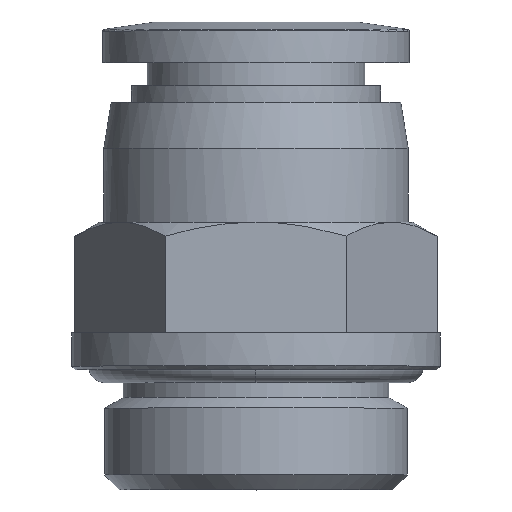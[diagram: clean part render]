
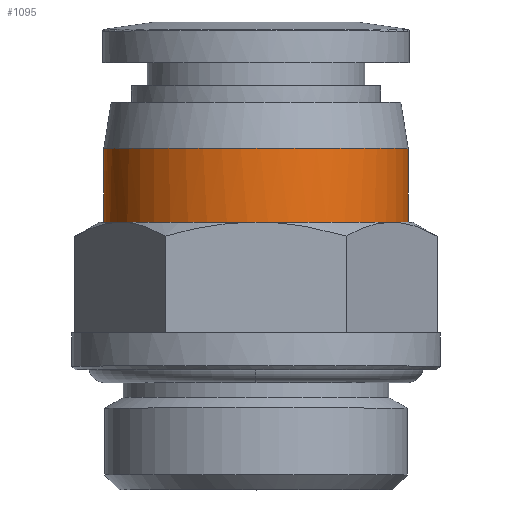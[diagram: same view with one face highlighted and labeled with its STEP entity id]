
A CAD part, top view. The second image highlights one B-rep face of the part: STEP entity #1095.
In plain terms, the highlighted cylindrical face has radius 8.25 mm (diameter 16.5 mm), a partial arc.
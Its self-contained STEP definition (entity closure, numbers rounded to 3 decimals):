
#28 = CARTESIAN_POINT ( 'NONE',  ( 5.034, 14.5, 6.559 ) ) ;
#40 = CARTESIAN_POINT ( 'NONE',  ( 2.657, 14.5, 7.829 ) ) ;
#55 = CARTESIAN_POINT ( 'NONE',  ( 6.216, 14.5, 5.451 ) ) ;
#74 = CARTESIAN_POINT ( 'NONE',  ( 8.197, 14.5, 1.079 ) ) ;
#94 = CARTESIAN_POINT ( 'NONE',  ( -7.829, 14.5, 2.657 ) ) ;
#129 = CARTESIAN_POINT ( 'NONE',  ( -8.25, 18.5, 1.08 ) ) ;
#146 = CARTESIAN_POINT ( 'NONE',  ( -8.25, 18.5, 0. ) ) ;
#159 = ORIENTED_EDGE ( 'NONE', *, *, #600, .T. ) ;
#268 = EDGE_LOOP ( 'NONE', ( #2865, #159, #394, #536 ) ) ;
#279 = CARTESIAN_POINT ( 'NONE',  ( 0.541, 14.5, 8.25 ) ) ;
#332 = CARTESIAN_POINT ( 'NONE',  ( 8.25, 14.5, 0.541 ) ) ;
#377 = CARTESIAN_POINT ( 'NONE',  ( -7.209, 18.5, 4.155 ) ) ;
#394 = ORIENTED_EDGE ( 'NONE', *, *, #2871, .T. ) ;
#426 = CARTESIAN_POINT ( 'NONE',  ( -6.597, 18.5, 5.07 ) ) ;
#443 = CARTESIAN_POINT ( 'NONE',  ( 7.209, 18.5, 4.155 ) ) ;
#522 = CARTESIAN_POINT ( 'NONE',  ( 2.14, 14.5, 7.986 ) ) ;
#536 = ORIENTED_EDGE ( 'NONE', *, *, #1588, .F. ) ;
#599 = LINE ( 'NONE', #1134, #798 ) ;
#600 = EDGE_CURVE ( 'NONE', #1071, #3221, #599, .T. ) ;
#644 = CARTESIAN_POINT ( 'NONE',  ( 8.25, 18.5, 0. ) ) ;
#682 = LINE ( 'NONE', #1703, #2948 ) ;
#760 = CARTESIAN_POINT ( 'NONE',  ( 8.25, 14.5, 0. ) ) ;
#792 = CARTESIAN_POINT ( 'NONE',  ( -2.14, 14.5, 7.986 ) ) ;
#798 = VECTOR ( 'NONE', #1844, 1000. ) ;
#847 = CARTESIAN_POINT ( 'NONE',  ( -6.559, 14.5, 5.034 ) ) ;
#894 = CARTESIAN_POINT ( 'NONE',  ( 4.155, 18.5, 7.209 ) ) ;
#1023 = CARTESIAN_POINT ( 'NONE',  ( 3.657, 14.5, 7.415 ) ) ;
#1036 = VERTEX_POINT ( 'NONE', #1212 ) ;
#1038 = CARTESIAN_POINT ( 'NONE',  ( -0.541, 14.5, 8.25 ) ) ;
#1044 = FACE_OUTER_BOUND ( 'NONE', #268, .T. ) ;
#1054 = CARTESIAN_POINT ( 'NONE',  ( -4.133, 14.5, 7.16 ) ) ;
#1071 = VERTEX_POINT ( 'NONE', #1808 ) ;
#1092 = CARTESIAN_POINT ( 'NONE',  ( -6.216, 14.5, 5.451 ) ) ;
#1095 = ADVANCED_FACE ( 'NONE', ( #1044 ), #1359, .T. ) ;
#1134 = CARTESIAN_POINT ( 'NONE',  ( 8.25, 16.5, 0. ) ) ;
#1195 = CARTESIAN_POINT ( 'NONE',  ( -2.159, 18.5, 8.035 ) ) ;
#1212 = CARTESIAN_POINT ( 'NONE',  ( -8.25, 14.5, 0. ) ) ;
#1241 = CARTESIAN_POINT ( 'NONE',  ( -8.25, 14.5, 0. ) ) ;
#1336 = CARTESIAN_POINT ( 'NONE',  ( 7.829, 14.5, 2.657 ) ) ;
#1359 = CYLINDRICAL_SURFACE ( 'NONE', #2167, 8.25 ) ;
#1493 = VERTEX_POINT ( 'NONE', #2562 ) ;
#1508 = CARTESIAN_POINT ( 'NONE',  ( 6.559, 14.5, 5.034 ) ) ;
#1574 = CARTESIAN_POINT ( 'NONE',  ( 7.415, 14.5, 3.657 ) ) ;
#1588 = EDGE_CURVE ( 'NONE', #1036, #1493, #682, .T. ) ;
#1604 = CARTESIAN_POINT ( 'NONE',  ( 0., 16.5, 0. ) ) ;
#1703 = CARTESIAN_POINT ( 'NONE',  ( -8.25, 16.5, 0. ) ) ;
#1782 = CARTESIAN_POINT ( 'NONE',  ( -2.657, 14.5, 7.829 ) ) ;
#1808 = CARTESIAN_POINT ( 'NONE',  ( 8.25, 14.5, 0. ) ) ;
#1841 = CARTESIAN_POINT ( 'NONE',  ( -7.415, 14.5, 3.657 ) ) ;
#1844 = DIRECTION ( 'NONE',  ( 0., 1., 0. ) ) ;
#1909 = CARTESIAN_POINT ( 'NONE',  ( 6.597, 18.5, 5.07 ) ) ;
#1928 = CARTESIAN_POINT ( 'NONE',  ( 5.07, 18.5, 6.597 ) ) ;
#2034 = CARTESIAN_POINT ( 'NONE',  ( -1.079, 14.5, 8.197 ) ) ;
#2049 = CARTESIAN_POINT ( 'NONE',  ( 4.133, 14.5, 7.16 ) ) ;
#2087 = CARTESIAN_POINT ( 'NONE',  ( -7.16, 14.5, 4.133 ) ) ;
#2125 = B_SPLINE_CURVE_WITH_KNOTS ( 'NONE', 3,
 ( #644, #2621, #2638, #443, #1909, #1928, #894, #2671, #2885, #3182, #1195, #2902, #2153, #426, #377, #2362, #129, #146 ),
 .UNSPECIFIED., .F., .F.,
 ( 4, 2, 2, 2, 2, 2, 2, 2, 4 ),
 ( 0.5, 0.563, 0.625, 0.687, 0.75, 0.812, 0.875, 0.937, 1. ),
 .UNSPECIFIED. ) ;
#2153 = CARTESIAN_POINT ( 'NONE',  ( -5.07, 18.5, 6.597 ) ) ;
#2167 = AXIS2_PLACEMENT_3D ( 'NONE', #1604, #2298, #3073 ) ;
#2261 = CARTESIAN_POINT ( 'NONE',  ( 5.451, 14.5, 6.216 ) ) ;
#2298 = DIRECTION ( 'NONE',  ( 0., 1., 0. ) ) ;
#2341 = B_SPLINE_CURVE_WITH_KNOTS ( 'NONE', 3,
 ( #760, #332, #74, #2550, #1336, #1574, #2569, #1508, #55, #2261, #28, #2049, #1023, #40, #522, #2514, #279, #1038, #2034, #792, #1782, #2784, #1054, #3049, #2801, #1092, #847, #2087, #1841, #94, #3083, #2988, #2972, #1241 ),
 .UNSPECIFIED., .F., .F.,
 ( 4, 2, 2, 2, 2, 2, 2, 2, 2, 2, 2, 2, 2, 2, 2, 2, 4 ),
 ( 0.5, 0.531, 0.563, 0.594, 0.625, 0.656, 0.688, 0.719, 0.75, 0.781, 0.813, 0.844, 0.875, 0.906, 0.938, 0.969, 1. ),
 .UNSPECIFIED. ) ;
#2362 = CARTESIAN_POINT ( 'NONE',  ( -8.035, 18.5, 2.159 ) ) ;
#2427 = DIRECTION ( 'NONE',  ( 0., 1., 0. ) ) ;
#2430 = EDGE_CURVE ( 'NONE', #1071, #1036, #2341, .T. ) ;
#2514 = CARTESIAN_POINT ( 'NONE',  ( 1.079, 14.5, 8.197 ) ) ;
#2550 = CARTESIAN_POINT ( 'NONE',  ( 7.986, 14.5, 2.14 ) ) ;
#2562 = CARTESIAN_POINT ( 'NONE',  ( -8.25, 18.5, 0. ) ) ;
#2569 = CARTESIAN_POINT ( 'NONE',  ( 7.16, 14.5, 4.133 ) ) ;
#2621 = CARTESIAN_POINT ( 'NONE',  ( 8.25, 18.5, 1.08 ) ) ;
#2638 = CARTESIAN_POINT ( 'NONE',  ( 8.035, 18.5, 2.159 ) ) ;
#2660 = CARTESIAN_POINT ( 'NONE',  ( 8.25, 18.5, 0. ) ) ;
#2671 = CARTESIAN_POINT ( 'NONE',  ( 2.159, 18.5, 8.035 ) ) ;
#2784 = CARTESIAN_POINT ( 'NONE',  ( -3.657, 14.5, 7.415 ) ) ;
#2801 = CARTESIAN_POINT ( 'NONE',  ( -5.451, 14.5, 6.216 ) ) ;
#2865 = ORIENTED_EDGE ( 'NONE', *, *, #2430, .F. ) ;
#2871 = EDGE_CURVE ( 'NONE', #3221, #1493, #2125, .T. ) ;
#2885 = CARTESIAN_POINT ( 'NONE',  ( 1.08, 18.5, 8.25 ) ) ;
#2902 = CARTESIAN_POINT ( 'NONE',  ( -4.155, 18.5, 7.209 ) ) ;
#2948 = VECTOR ( 'NONE', #2427, 1000. ) ;
#2972 = CARTESIAN_POINT ( 'NONE',  ( -8.25, 14.5, 0.542 ) ) ;
#2988 = CARTESIAN_POINT ( 'NONE',  ( -8.197, 14.5, 1.078 ) ) ;
#3049 = CARTESIAN_POINT ( 'NONE',  ( -5.034, 14.5, 6.559 ) ) ;
#3073 = DIRECTION ( 'NONE',  ( -1., 0., 0. ) ) ;
#3083 = CARTESIAN_POINT ( 'NONE',  ( -7.986, 14.5, 2.141 ) ) ;
#3182 = CARTESIAN_POINT ( 'NONE',  ( -1.08, 18.5, 8.25 ) ) ;
#3221 = VERTEX_POINT ( 'NONE', #2660 ) ;
